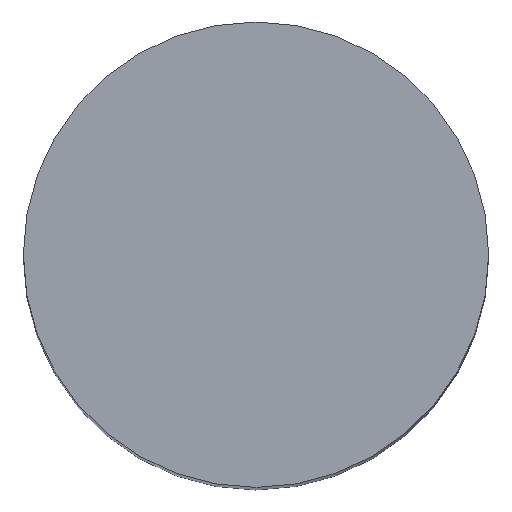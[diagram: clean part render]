
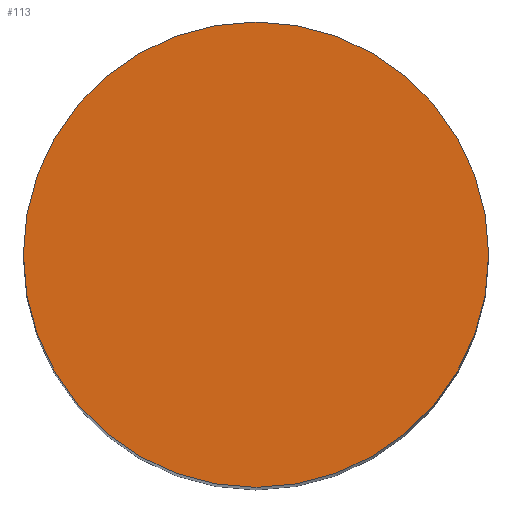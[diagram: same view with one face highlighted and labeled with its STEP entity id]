
A CAD part, top view. The second image highlights one B-rep face of the part: STEP entity #113.
In plain terms, the highlighted planar face has unit normal (0, 0, 1).
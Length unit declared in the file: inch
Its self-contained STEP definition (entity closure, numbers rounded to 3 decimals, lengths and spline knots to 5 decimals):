
#17 = DIRECTION ( 'NONE',  ( 0., 0., 1. ) ) ;
#22 = DIRECTION ( 'NONE',  ( 1., 0., 0. ) ) ;
#28 = CARTESIAN_POINT ( 'NONE',  ( 0., 0., 0.8 ) ) ;
#32 = DIRECTION ( 'NONE',  ( 0., 0., 1. ) ) ;
#38 = DIRECTION ( 'NONE',  ( 1., 0., 0. ) ) ;
#43 = CARTESIAN_POINT ( 'NONE',  ( 0., 0., 0.8 ) ) ;
#52 = CARTESIAN_POINT ( 'NONE',  ( 0., 0., 0.8 ) ) ;
#53 = DIRECTION ( 'NONE',  ( 0., 0., 1. ) ) ;
#54 = DIRECTION ( 'NONE',  ( 1., 0., 0. ) ) ;
#56 = CARTESIAN_POINT ( 'NONE',  ( 0.125, 0., 0.8 ) ) ;
#57 = CARTESIAN_POINT ( 'NONE',  ( -0.125, 0., 0.8 ) ) ;
#62 = PLANE ( 'NONE',  #124 ) ;
#67 = VERTEX_POINT ( 'NONE', #56 ) ;
#74 = EDGE_LOOP ( 'NONE', ( #89, #77 ) ) ;
#76 = VERTEX_POINT ( 'NONE', #57 ) ;
#77 = ORIENTED_EDGE ( 'NONE', *, *, #129, .T. ) ;
#84 = CIRCLE ( 'NONE', #120, 0.125 ) ;
#89 = ORIENTED_EDGE ( 'NONE', *, *, #123, .T. ) ;
#91 = CIRCLE ( 'NONE', #143, 0.125 ) ;
#94 = FACE_OUTER_BOUND ( 'NONE', #74, .T. ) ;
#113 = ADVANCED_FACE ( 'NONE', ( #94 ), #62, .T. ) ;
#120 = AXIS2_PLACEMENT_3D ( 'NONE', #28, #32, #38 ) ;
#123 = EDGE_CURVE ( 'NONE', #76, #67, #91, .T. ) ;
#124 = AXIS2_PLACEMENT_3D ( 'NONE', #52, #53, #54 ) ;
#129 = EDGE_CURVE ( 'NONE', #67, #76, #84, .T. ) ;
#143 = AXIS2_PLACEMENT_3D ( 'NONE', #43, #17, #22 ) ;
